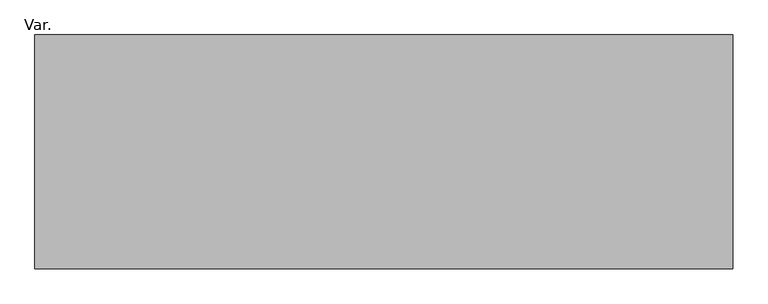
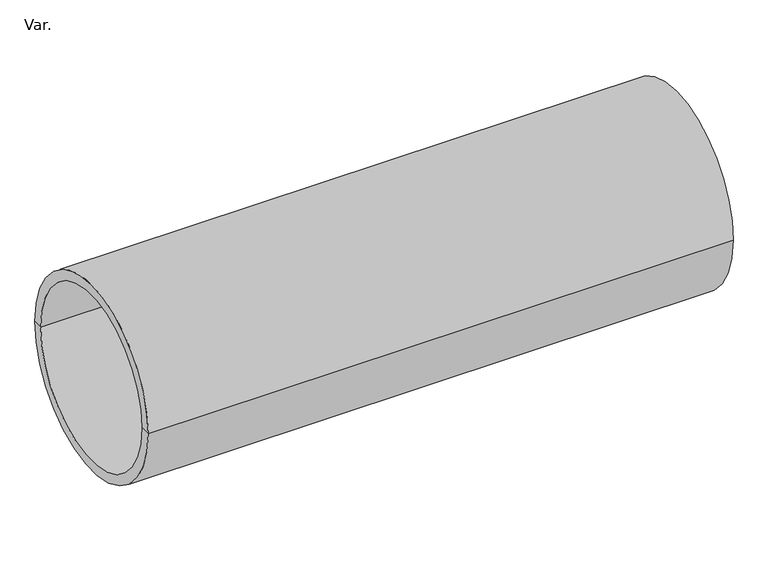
"""IFC4 building model written with IfcOpenShell, lengths in millimetres: pipe fitting geometry, PlastigamaWavin_Unionesdetubería_NovafortZNoUsarSistemaTILElevador : Var.."""

from ifc_helpers import new_model, si_unit, frame, origin, place, context, project, spatial, polyline, circle_curve, source, transform, mapped, element, save
from ifc_brep_helpers import plane_surface, cylinder_surface, revolved_surface, advanced_brep


def var_e3ae8edc(model_context):
    return source(origin(), model_context, "Body", "AdvancedBrep", [
        advanced_brep(
        [(-69.2453589, -167.5, 0.0), (-69.2453589, 167.5, 0.0), (930.7546411, 167.5, 0.0), (930.7546411, -167.5, 0.0), (-69.2453589, -150.0, 0.0), (-69.2453589, 150.0, 0.0), (930.7546411, -150.0, 0.0), (930.7546411, 150.0, 0.0)],
        [
            (0, 1, circle_curve(frame((-69.2453589, 0.0, 0.0), z_axis=(1.0, 0.0, 0.0), x_axis=(0.0, 1.0, 0.0)), 167.5)),
            (1, 2),
            (2, 3, circle_curve(frame((930.7546411, 0.0, 0.0), z_axis=(-1.0, 0.0, 0.0), x_axis=(0.0, 1.0, 0.0)), 167.5)),
            (3, 0),
            (1, 0, circle_curve(frame((-69.2453589, 0.0, 0.0), z_axis=(1.0, 0.0, 0.0), x_axis=(0.0, 1.0, 0.0)), 167.5)),
            (3, 2, circle_curve(frame((930.7546411, 0.0, 0.0), z_axis=(-1.0, 0.0, 0.0), x_axis=(0.0, 1.0, 0.0)), 167.5)),
            (4, 5, circle_curve(frame((-69.2453589, 0.0, 0.0), z_axis=(1.0, 0.0, 0.0), x_axis=(0.0, 1.0, 0.0)), 150.0)),
            (5, 1),
            (0, 4),
            (5, 4, circle_curve(frame((-69.2453589, 0.0, 0.0), z_axis=(1.0, 0.0, 0.0), x_axis=(0.0, 1.0, 0.0)), 150.0)),
            (6, 7, circle_curve(frame((930.7546411, 0.0, 0.0), z_axis=(1.0, 0.0, 0.0), x_axis=(0.0, 1.0, 0.0)), 150.0)),
            (7, 5),
            (4, 6),
            (7, 6, circle_curve(frame((930.7546411, 0.0, 0.0), z_axis=(1.0, 0.0, 0.0), x_axis=(0.0, 1.0, 0.0)), 150.0)),
            (2, 7),
            (6, 3),
        ],
        [
            cylinder_surface(frame((-2070.4026442, 0.0, 0.0), z_axis=(-1.0, 0.0, 0.0), x_axis=(0.0, 1.0, 0.0)), 167.5),
            plane_surface(frame((-69.2453589, 0.0, 0.0), z_axis=(-1.0, 0.0, 0.0), x_axis=(0.0, 1.0, 0.0))),
            revolved_surface(polyline([(-69.24535889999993, 150.0, 0.0), (930.7546410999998, 150.0, 0.0)]), (-2070.4026442, 0.0, 0.0), (-1.0, 0.0, 0.0)),
            plane_surface(frame((930.7546411, 0.0, 0.0), z_axis=(1.0, 0.0, 0.0), x_axis=(0.0, 1.0, 0.0))),
        ],
        [
            (0, [[1, 2, 3, 4]]),
            (0, [[5, -4, 6, -2]]),
            (1, [[7, 8, -1, 9]]),
            (1, [[10, -9, -5, -8]]),
            (2, [[11, 12, -7, 13]]),
            (2, [[14, -13, -10, -12]]),
            (3, [[-3, 15, -11, 16]]),
            (3, [[-6, -16, -14, -15]]),
        ],
    ),
    ])


if __name__ == "__main__":
    model = new_model("IFC4")
    model_context = context("Model", 3, world=origin())
    ifc_project = project(units=[si_unit("LENGTHUNIT", "METRE", prefix="MILLI")], contexts=[model_context])
    site = spatial("IfcSite", under=ifc_project)
    building = spatial("IfcBuilding", under=site)
    placement = place(None, origin())
    var_shape = var_e3ae8edc(model_context)
    element("IfcPipeFitting", 1, ObjectType="PlastigamaWavin_Unionesdetubería_NovafortZNoUsarSistemaTILElevador : Var.", at=placement, inside=building, context=model_context, shape_type="MappedRepresentation", body=[
        mapped(var_shape, transform((0.0, 0.0, 0.0), x_axis=(1.0, 0.0, 0.0), y_axis=(0.0, 1.0, 0.0), z_axis=(0.0, 0.0, 1.0))),
    ])
    save(model, "model.ifc")
